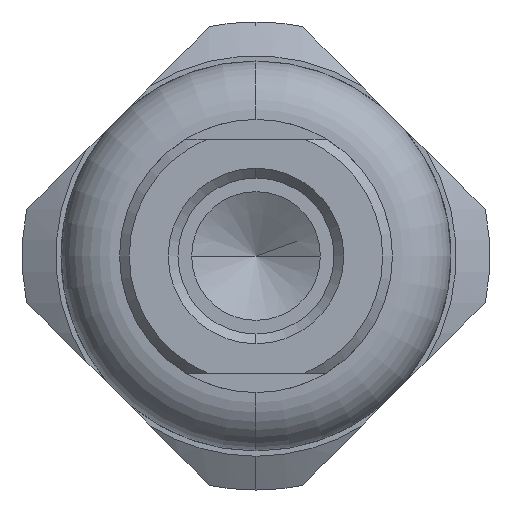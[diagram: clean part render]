
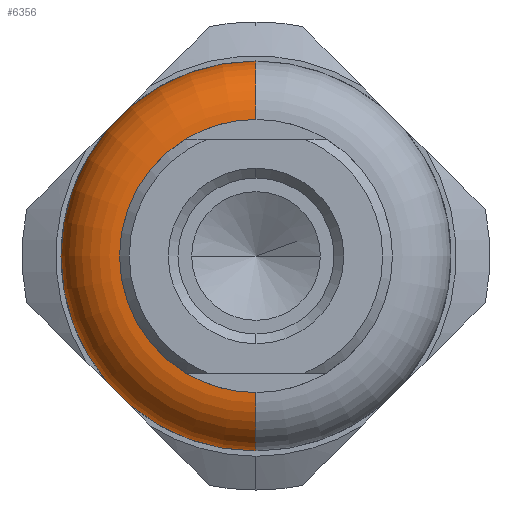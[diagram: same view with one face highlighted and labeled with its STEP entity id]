
A CAD part, left-side view. The second image highlights one B-rep face of the part: STEP entity #6356.
In plain terms, the highlighted toroidal (fillet/blend) face has major radius 3.5 mm and minor radius 1.5 mm.
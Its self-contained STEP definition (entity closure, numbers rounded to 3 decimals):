
#3535 = DIRECTION ( 'NONE',  ( 0., 0., -1. ) ) ;
#3536 = DIRECTION ( 'NONE',  ( 1., 0., 0. ) ) ;
#3537 = AXIS2_PLACEMENT_3D ( 'NONE', #3538, #3536, #3535 ) ;
#3538 = CARTESIAN_POINT ( 'NONE',  ( 1.5, 0., 0. ) ) ;
#3539 = TOROIDAL_SURFACE ( 'NONE', #3537, 3.5, 1.5 ) ;
#3543 = FACE_OUTER_BOUND ( 'NONE', #6407, .T. ) ;
#3587 = CARTESIAN_POINT ( 'NONE',  ( 0., 0., 3.5 ) ) ;
#3588 = CARTESIAN_POINT ( 'NONE',  ( 0., 0., -3.5 ) ) ;
#3589 = DIRECTION ( 'NONE',  ( 0., 0., 1. ) ) ;
#3590 = DIRECTION ( 'NONE',  ( 0., 1., 0. ) ) ;
#3591 = CARTESIAN_POINT ( 'NONE',  ( 1.5, 0., 3.5 ) ) ;
#3592 = AXIS2_PLACEMENT_3D ( 'NONE', #3591, #3590, #3589 ) ;
#3593 = CIRCLE ( 'NONE', #3592, 1.5 ) ;
#3594 = CARTESIAN_POINT ( 'NONE',  ( 1.5, 0., 5. ) ) ;
#3595 = DIRECTION ( 'NONE',  ( 0., 0., -1. ) ) ;
#3596 = DIRECTION ( 'NONE',  ( 1., 0., 0. ) ) ;
#3597 = CARTESIAN_POINT ( 'NONE',  ( 1.5, 0., 0. ) ) ;
#3598 = AXIS2_PLACEMENT_3D ( 'NONE', #3597, #3596, #3595 ) ;
#3599 = CIRCLE ( 'NONE', #3598, 5. ) ;
#3600 = CARTESIAN_POINT ( 'NONE',  ( 1.5, 0., -5. ) ) ;
#3601 = DIRECTION ( 'NONE',  ( 0., 0., -1. ) ) ;
#3602 = DIRECTION ( 'NONE',  ( 0., -1., 0. ) ) ;
#3603 = CARTESIAN_POINT ( 'NONE',  ( 1.5, 0., -3.5 ) ) ;
#3604 = AXIS2_PLACEMENT_3D ( 'NONE', #3603, #3602, #3601 ) ;
#3605 = CIRCLE ( 'NONE', #3604, 1.5 ) ;
#3639 = DIRECTION ( 'NONE',  ( 0., 0., 1. ) ) ;
#3640 = DIRECTION ( 'NONE',  ( -1., 0., 0. ) ) ;
#3641 = CARTESIAN_POINT ( 'NONE',  ( 0., 0., 0. ) ) ;
#3642 = AXIS2_PLACEMENT_3D ( 'NONE', #3641, #3640, #3639 ) ;
#3643 = CIRCLE ( 'NONE', #3642, 3.5 ) ;
#6356 = ADVANCED_FACE ( 'NONE', ( #3543 ), #3539, .T. ) ;
#6390 = EDGE_CURVE ( 'NONE', #6399, #6392, #3605, .T. ) ;
#6391 = ORIENTED_EDGE ( 'NONE', *, *, #6390, .F. ) ;
#6392 = VERTEX_POINT ( 'NONE', #3600 ) ;
#6393 = EDGE_CURVE ( 'NONE', #6392, #6395, #3599, .T. ) ;
#6394 = ORIENTED_EDGE ( 'NONE', *, *, #6393, .F. ) ;
#6395 = VERTEX_POINT ( 'NONE', #3594 ) ;
#6397 = EDGE_CURVE ( 'NONE', #6400, #6395, #3593, .T. ) ;
#6398 = ORIENTED_EDGE ( 'NONE', *, *, #6397, .T. ) ;
#6399 = VERTEX_POINT ( 'NONE', #3588 ) ;
#6400 = VERTEX_POINT ( 'NONE', #3587 ) ;
#6401 = EDGE_CURVE ( 'NONE', #6400, #6399, #3643, .T. ) ;
#6402 = ORIENTED_EDGE ( 'NONE', *, *, #6401, .F. ) ;
#6407 = EDGE_LOOP ( 'NONE', ( #6402, #6398, #6394, #6391 ) ) ;
